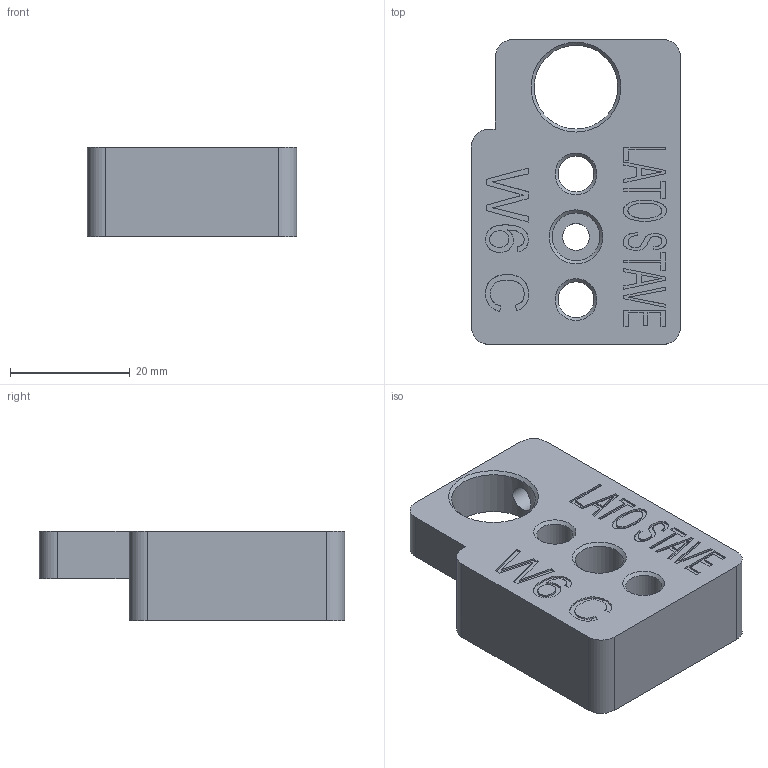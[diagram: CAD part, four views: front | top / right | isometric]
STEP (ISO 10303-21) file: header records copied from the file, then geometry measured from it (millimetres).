
FILE_DESCRIPTION(/* description */ (''),/* implementation_level */ '2;1');
FILE_NAME(/* name */ 'WHEELS-INSERT.08.stp',/* time_stamp */ '2018-05-25T14:11:19+02:00',/* author */ (''),/* organization */ (''),/* preprocessor_version */ 'ST-DEVELOPER v16.7',/* originating_system */ 'SIEMENS PLM Software NX 12.0',/* authorisation */ '');
FILE_SCHEMA (('AP203_CONFIGURATION_CONTROLLED_3D_DESIGN_OF_MECHANICAL_PARTS_AND_ASSEMBLIES_MIM_LF { 1 0 10303 403 2 1 2}'));
Length unit declared in the file: millimetre
Products named in the file (1): turc66A81BAD9zce
Bounding box: 35 x 51 x 15 mm (x, y, z)
Volume: 19761.1 mm3; surface area: 6629.8 mm2
Topology: 1 solids, 1 shells, 142 faces, 367 edges, 243 vertices
Faces by surface type: plane 95, extrusion 27, cylinder 12, cone 8
Full cylindrical faces by diameter (mm): 4.2 x1, 4.5 x1, 6 x2, 8 x1, 14 x1
Entity records: 5179 total; most frequent: CARTESIAN_POINT 2025, ORIENTED_EDGE 696, DIRECTION 445, EDGE_CURVE 348, VERTEX_POINT 238, B_SPLINE_CURVE_WITH_KNOTS 220, EDGE_LOOP 182, VECTOR 151
